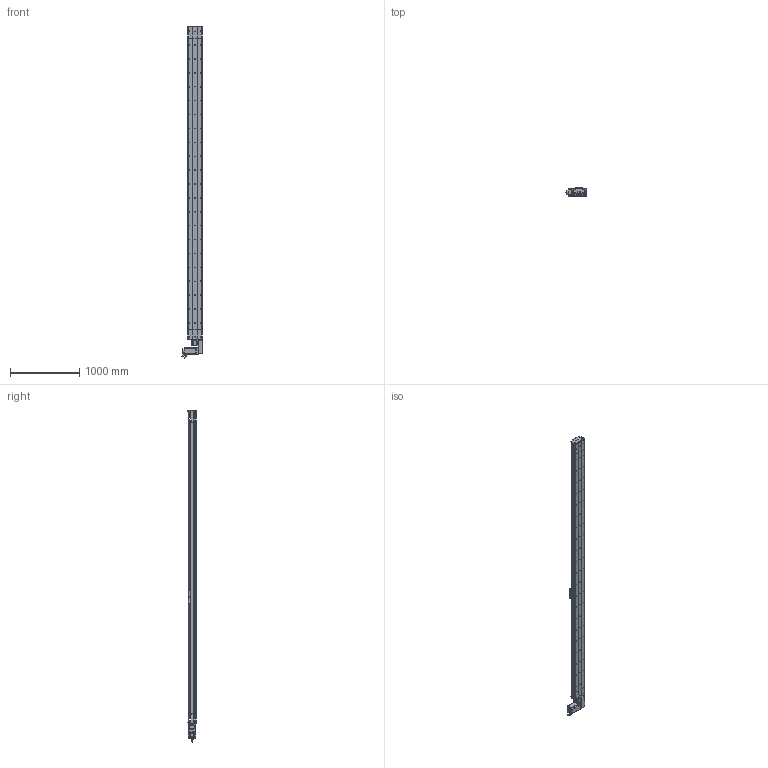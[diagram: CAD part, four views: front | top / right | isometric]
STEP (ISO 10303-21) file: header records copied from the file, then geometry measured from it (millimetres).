
FILE_DESCRIPTION (( 'STEP AP214' ), '1' );
FILE_NAME ('D20 TBH LH S4200.STEP', '2010-07-01T09:23:03', ( 'Conseil Régional Haute-Normandie' ), ( 'Conseil Régional Haute-Normandie' ), 'SwSTEP 2.0', 'SolidWorks 2010', '' );
FILE_SCHEMA (( 'AUTOMOTIVE_DESIGN' ));
Length unit declared in the file: millimetre
Products named in the file (40): guide D20B; rail + couroie  D20 S4200; couvercle D20 S4200_Default; Conecteur2_Default; Chariot D20B; chariot D20B_Default; Course B L4200_Default; corp D20 S4200_Default; D20 TBH LH S4200; head LH_Default; plaque de  bout head D20B LH_Default; codeur 110BLDC170A-630x; Renvoi LH D20_Default; vis M5 L5_Default; couroie_Default; cache D20_Default; rail head D20; couvercle head D20_Default; poulie head D20_Default; cache arbre D20_Default; corpl head D20_Default; vis M5 L70_Default; Plaque racord D20LH_Default; Moteur motionking 110BLDC170A-640x; avant 110BLDC170A-630x; corps 110BLDC170A-630x; vis M5 L25_Default; vis M5 L12_Default; poulie tail D20_Default; vis M8 L12_Default; corpl tail D20_Default; tete d''axe poulie D20B; couvercle tail D20_Default; rail tail D20; vis M5 L8 90°_Default; Conecteur_Default; clavette; Couroie tail D20_Default; plaque de  bout tail D20_Default; tail D20_Default
Assembly tree (71 placements, depth 4):
  D20 TBH LH S4200
    head LH_Default
      corpl head D20_Default
      Plaque racord D20LH_Default
      vis M5 L70_Default  x4
      cache arbre D20_Default
      vis M5 L12_Default  x10
      couroie_Default
      poulie head D20_Default
      vis M8 L12_Default  x4
      vis M5 L5_Default  x4
      cache D20_Default  x2
      vis M5 L25_Default  x2
      rail head D20
      plaque de  bout head D20B LH_Default
      Renvoi LH D20_Default
      couvercle head D20_Default
      Moteur motionking 110BLDC170A-640x
        corps 110BLDC170A-630x
        avant 110BLDC170A-630x
        Conecteur_Default
        codeur 110BLDC170A-630x
        clavette
        Conecteur2_Default
    chariot D20B_Default
      guide D20B  x2
      vis M5 L12_Default  x4
      Chariot D20B
    tail D20_Default
      corpl tail D20_Default
      vis M5 L8 90°_Default  x2
      vis M5 L25_Default  x2
      vis M5 L12_Default  x4
      tete d''axe poulie D20B
      couvercle tail D20_Default
      poulie tail D20_Default
      plaque de  bout tail D20_Default
      Couroie tail D20_Default
      rail tail D20
    Course B L4200_Default
      corp D20 S4200_Default
      couvercle D20 S4200_Default
      rail + couroie  D20 S4200
Bounding box: 304.2 x 115.7 x 4780 mm (x, y, z)
Volume: 35303432.9 mm3; surface area: 8840436.6 mm2
Topology: 95 solids, 95 shells, 2961 faces, 7725 edges, 5001 vertices
Faces by surface type: plane 1658, cylinder 979, bspline 136, cone 99, torus 89
Entity records: 98112 total; most frequent: CARTESIAN_POINT 32425, ORIENTED_EDGE 12106, DIRECTION 11296, EDGE_CURVE 6053, VERTEX_POINT 3987, AXIS2_PLACEMENT_3D 3778, VECTOR 3740, LINE 3740
